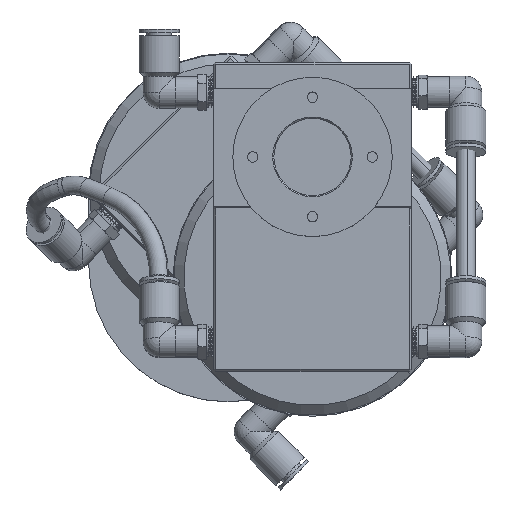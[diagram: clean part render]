
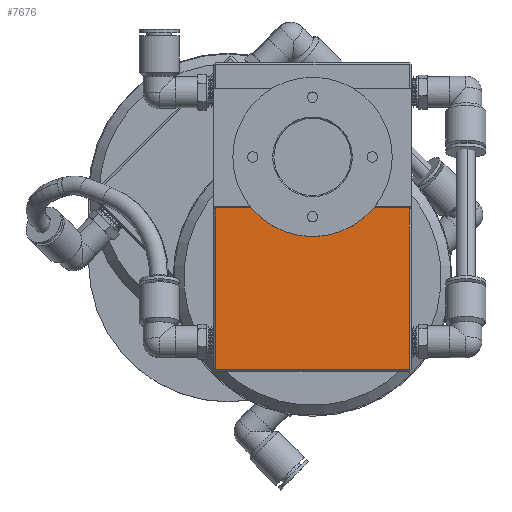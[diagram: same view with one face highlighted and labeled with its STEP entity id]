
A CAD part, top view. The second image highlights one B-rep face of the part: STEP entity #7676.
In plain terms, the highlighted planar face has unit normal (0, 0, 1).
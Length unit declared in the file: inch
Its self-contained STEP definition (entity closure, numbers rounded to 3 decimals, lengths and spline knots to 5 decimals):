
#1152 = ORIENTED_EDGE ( 'NONE', *, *, #34525, .T. ) ;
#2592 = PLANE ( 'NONE',  #11177 ) ;
#2856 = VERTEX_POINT ( 'NONE', #21445 ) ;
#3325 = DIRECTION ( 'NONE',  ( 0., -1., 0. ) ) ;
#4310 = CARTESIAN_POINT ( 'NONE',  ( 0.28524, -1.16543, -0.01926 ) ) ;
#6319 = ORIENTED_EDGE ( 'NONE', *, *, #29717, .T. ) ;
#7676 = ADVANCED_FACE ( 'Defeatured_19_2', ( #13634 ), #2592, .F. ) ;
#7716 = CARTESIAN_POINT ( 'NONE',  ( 0.25994, 0.86057, -0.01926 ) ) ;
#8484 = VECTOR ( 'NONE', #34050, 39.37008 ) ;
#8718 = ORIENTED_EDGE ( 'NONE', *, *, #23379, .T. ) ;
#11177 = AXIS2_PLACEMENT_3D ( 'NONE', #16730, #31461, #25707 ) ;
#11435 = CARTESIAN_POINT ( 'NONE',  ( 0.28524, -1.19043, -0.01926 ) ) ;
#12640 = CARTESIAN_POINT ( 'NONE',  ( 2.71494, 0.86093, -0.01926 ) ) ;
#13634 = FACE_OUTER_BOUND ( 'NONE', #27061, .T. ) ;
#15967 = VERTEX_POINT ( 'NONE', #19761 ) ;
#16730 = CARTESIAN_POINT ( 'NONE',  ( 0.26024, -1.19043, -0.01926 ) ) ;
#18089 = CARTESIAN_POINT ( 'NONE',  ( 0.26024, -1.16543, -0.01926 ) ) ;
#19369 = VECTOR ( 'NONE', #29653, 39.37008 ) ;
#19431 = VECTOR ( 'NONE', #3325, 39.37008 ) ;
#19761 = CARTESIAN_POINT ( 'NONE',  ( 2.71494, 0.86093, -0.01926 ) ) ;
#20272 = VERTEX_POINT ( 'NONE', #4310 ) ;
#20286 = VERTEX_POINT ( 'NONE', #28349 ) ;
#21249 = LINE ( 'NONE', #7716, #8484 ) ;
#21303 = VECTOR ( 'NONE', #33000, 39.37008 ) ;
#21445 = CARTESIAN_POINT ( 'NONE',  ( 2.71524, -1.16507, -0.01926 ) ) ;
#22142 = LINE ( 'NONE', #11435, #19431 ) ;
#23379 = EDGE_CURVE ( 'Defeatured_19_2+Defeatured_19_17+Defeatured_19_15+Defeatured_19_0', #2856, #15967, #33622, .T. ) ;
#25707 = DIRECTION ( 'NONE',  ( -1., 0., 0. ) ) ;
#27061 = EDGE_LOOP ( 'NONE', ( #1152, #8718, #33528, #6319 ) ) ;
#28349 = CARTESIAN_POINT ( 'NONE',  ( 0.28494, 0.86057, -0.01926 ) ) ;
#29653 = DIRECTION ( 'NONE',  ( 1., 0., 0. ) ) ;
#29717 = EDGE_CURVE ( 'Defeatured_19_2+Defeatured_19_11+Defeatured_19_0+Defeatured_19_15', #20286, #20272, #22142, .T. ) ;
#31461 = DIRECTION ( 'NONE',  ( 0., 0., -1. ) ) ;
#32090 = LINE ( 'NONE', #18089, #19369 ) ;
#33000 = DIRECTION ( 'NONE',  ( 0., 1., 0. ) ) ;
#33066 = EDGE_CURVE ( 'Defeatured_19_0+Defeatured_19_2+Defeatured_19_11+Defeatured_19_17', #20286, #15967, #21249, .T. ) ;
#33528 = ORIENTED_EDGE ( 'NONE', *, *, #33066, .F. ) ;
#33622 = LINE ( 'NONE', #12640, #21303 ) ;
#34050 = DIRECTION ( 'NONE',  ( 1., 0., 0. ) ) ;
#34525 = EDGE_CURVE ( 'Defeatured_19_2+Defeatured_19_15+Defeatured_19_11+Defeatured_19_17', #20272, #2856, #32090, .T. ) ;
